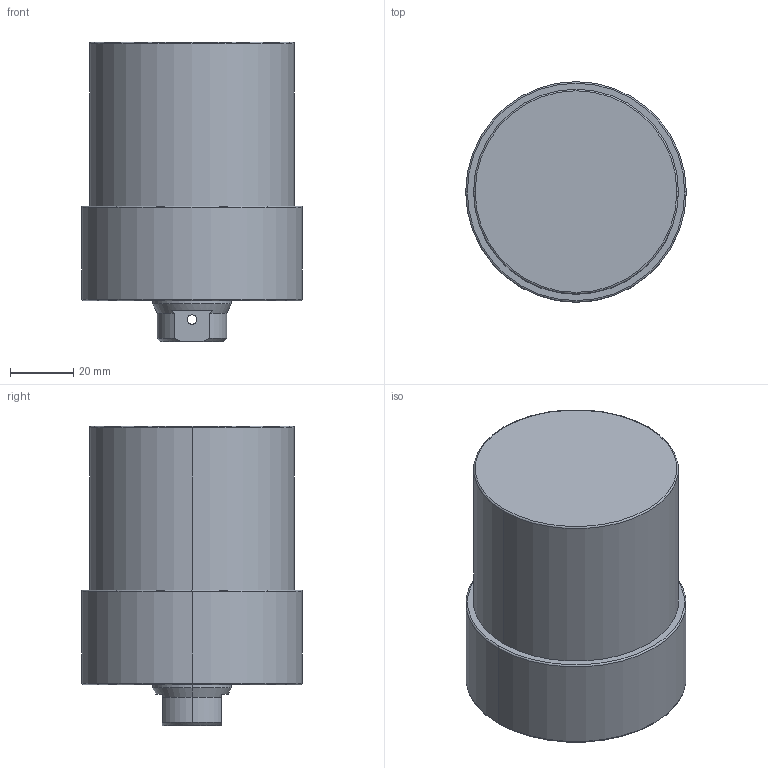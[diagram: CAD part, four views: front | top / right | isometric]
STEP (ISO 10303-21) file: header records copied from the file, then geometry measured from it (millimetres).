
FILE_DESCRIPTION (( 'STEP AP203' ), '1' );
FILE_NAME ('CLLU-065GB-035.STEP', '2020-01-06T08:42:31', ( '' ), ( '' ), 'SwSTEP 2.0', 'SolidWorks 2015', '' );
FILE_SCHEMA (( 'CONFIG_CONTROL_DESIGN' ));
Length unit declared in the file: millimetre
Products named in the file (1): CLLU-065GB-035
Bounding box: 70 x 70 x 95 mm (x, y, z)
Volume: 288479.8 mm3; surface area: 27839 mm2
Topology: 1 solids, 1 shells, 68 faces, 157 edges, 90 vertices
Faces by surface type: cylinder 27, cone 25, plane 10, torus 6
Entity records: 2051 total; most frequent: CARTESIAN_POINT 438, DIRECTION 352, ORIENTED_EDGE 294, AXIS2_PLACEMENT_3D 148, EDGE_CURVE 147, VERTEX_POINT 90, EDGE_LOOP 81, CIRCLE 79
